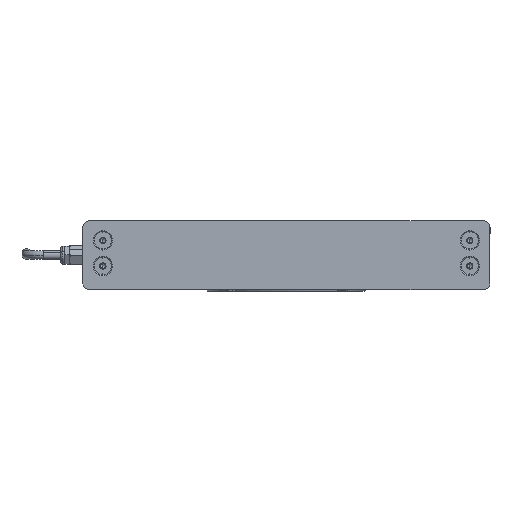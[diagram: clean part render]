
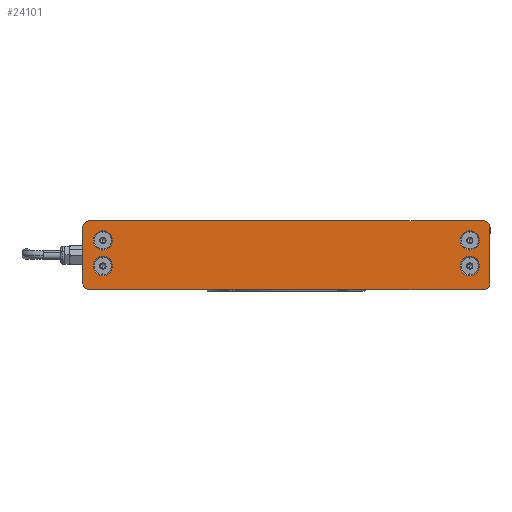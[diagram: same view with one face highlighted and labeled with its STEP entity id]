
A CAD part, left-side view. The second image highlights one B-rep face of the part: STEP entity #24101.
In plain terms, the highlighted planar face has unit normal (-1, 0, 0) as drawn and (0, 0, -1) by its records, which use the part's own axes.
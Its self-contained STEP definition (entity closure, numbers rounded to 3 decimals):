
#5 = CARTESIAN_POINT ( 'NONE',  ( -106.3, -6.3, 0. ) ) ;
#330 = DIRECTION ( 'NONE',  ( 0., 0., -1. ) ) ;
#967 = DIRECTION ( 'NONE',  ( 1., 0., 0. ) ) ;
#1575 = CARTESIAN_POINT ( 'NONE',  ( -114., -16., 0. ) ) ;
#1697 = EDGE_LOOP ( 'NONE', ( #24563, #9396 ) ) ;
#1763 = EDGE_CURVE ( 'NONE', #18692, #17347, #22283, .T. ) ;
#1767 = DIRECTION ( 'NONE',  ( -1., 0., 0. ) ) ;
#2002 = AXIS2_PLACEMENT_3D ( 'NONE', #13225, #4714, #2866 ) ;
#2028 = CARTESIAN_POINT ( 'NONE',  ( -118., 16., 0. ) ) ;
#2050 = AXIS2_PLACEMENT_3D ( 'NONE', #5, #23717, #5785 ) ;
#2136 = VERTEX_POINT ( 'NONE', #25730 ) ;
#2248 = CIRCLE ( 'NONE', #13560, 5.6 ) ;
#2310 = DIRECTION ( 'NONE',  ( 0., -1., 0. ) ) ;
#2498 = EDGE_CURVE ( 'NONE', #8921, #7787, #25748, .T. ) ;
#2655 = AXIS2_PLACEMENT_3D ( 'NONE', #19426, #5940, #23736 ) ;
#2722 = EDGE_CURVE ( 'NONE', #11114, #10862, #2248, .T. ) ;
#2824 = CARTESIAN_POINT ( 'NONE',  ( -111.9, 8.5, 0. ) ) ;
#2866 = DIRECTION ( 'NONE',  ( -1., 0., 0. ) ) ;
#2958 = DIRECTION ( 'NONE',  ( 0., 0., 1. ) ) ;
#3136 = ORIENTED_EDGE ( 'NONE', *, *, #10445, .F. ) ;
#3316 = ORIENTED_EDGE ( 'NONE', *, *, #11850, .F. ) ;
#3332 = ORIENTED_EDGE ( 'NONE', *, *, #10385, .F. ) ;
#3375 = DIRECTION ( 'NONE',  ( -1., 0., 0. ) ) ;
#3665 = ORIENTED_EDGE ( 'NONE', *, *, #20966, .F. ) ;
#4424 = EDGE_LOOP ( 'NONE', ( #17853, #22522, #3332, #6207, #24041, #15583, #21915, #8591 ) ) ;
#4503 = AXIS2_PLACEMENT_3D ( 'NONE', #20879, #10582, #967 ) ;
#4714 = DIRECTION ( 'NONE',  ( 0., 0., -1. ) ) ;
#5221 = DIRECTION ( 'NONE',  ( 0., 0., -1. ) ) ;
#5344 = DIRECTION ( 'NONE',  ( 0., 0., -1. ) ) ;
#5407 = CARTESIAN_POINT ( 'NONE',  ( 111.9, 8.5, 0. ) ) ;
#5595 = CIRCLE ( 'NONE', #2655, 5.6 ) ;
#5785 = DIRECTION ( 'NONE',  ( -1., 0., 0. ) ) ;
#5893 = EDGE_CURVE ( 'NONE', #11047, #19732, #21371, .T. ) ;
#5940 = DIRECTION ( 'NONE',  ( 0., 0., -1. ) ) ;
#6080 = EDGE_CURVE ( 'NONE', #23720, #11047, #11230, .T. ) ;
#6207 = ORIENTED_EDGE ( 'NONE', *, *, #5893, .F. ) ;
#6319 = CARTESIAN_POINT ( 'NONE',  ( 100.7, 8.5, 0. ) ) ;
#6405 = CARTESIAN_POINT ( 'NONE',  ( 100.7, -6.3, 0. ) ) ;
#6413 = DIRECTION ( 'NONE',  ( -1., 0., 0. ) ) ;
#6541 = LINE ( 'NONE', #14651, #25522 ) ;
#7029 = DIRECTION ( 'NONE',  ( 0., 0., -1. ) ) ;
#7050 = DIRECTION ( 'NONE',  ( -1., 0., 0. ) ) ;
#7467 = CARTESIAN_POINT ( 'NONE',  ( 111.9, -6.3, 0. ) ) ;
#7524 = CIRCLE ( 'NONE', #2050, 5.6 ) ;
#7543 = CIRCLE ( 'NONE', #20474, 4. ) ;
#7787 = VERTEX_POINT ( 'NONE', #24614 ) ;
#8298 = CIRCLE ( 'NONE', #4503, 4. ) ;
#8591 = ORIENTED_EDGE ( 'NONE', *, *, #17924, .F. ) ;
#8647 = FACE_BOUND ( 'NONE', #1697, .T. ) ;
#8667 = EDGE_CURVE ( 'NONE', #16506, #11144, #10839, .T. ) ;
#8762 = CARTESIAN_POINT ( 'NONE',  ( 118., 16., 0. ) ) ;
#8921 = VERTEX_POINT ( 'NONE', #12034 ) ;
#8963 = EDGE_CURVE ( 'NONE', #10211, #23720, #19864, .T. ) ;
#9141 = CARTESIAN_POINT ( 'NONE',  ( 106.3, 8.5, 0. ) ) ;
#9396 = ORIENTED_EDGE ( 'NONE', *, *, #13500, .F. ) ;
#9747 = ORIENTED_EDGE ( 'NONE', *, *, #1763, .F. ) ;
#10031 = VERTEX_POINT ( 'NONE', #20684 ) ;
#10211 = VERTEX_POINT ( 'NONE', #2028 ) ;
#10376 = CARTESIAN_POINT ( 'NONE',  ( -114., -20., 0. ) ) ;
#10385 = EDGE_CURVE ( 'NONE', #19732, #16969, #8298, .T. ) ;
#10445 = EDGE_CURVE ( 'NONE', #17347, #18692, #23314, .T. ) ;
#10582 = DIRECTION ( 'NONE',  ( 0., 0., 1. ) ) ;
#10839 = CIRCLE ( 'NONE', #2002, 5.6 ) ;
#10862 = VERTEX_POINT ( 'NONE', #5407 ) ;
#10988 = DIRECTION ( 'NONE',  ( -1., 0., 0. ) ) ;
#11047 = VERTEX_POINT ( 'NONE', #10376 ) ;
#11112 = CARTESIAN_POINT ( 'NONE',  ( 114., 16., 0. ) ) ;
#11114 = VERTEX_POINT ( 'NONE', #6319 ) ;
#11144 = VERTEX_POINT ( 'NONE', #7467 ) ;
#11230 = CIRCLE ( 'NONE', #12032, 4. ) ;
#11850 = EDGE_CURVE ( 'NONE', #7787, #8921, #7524, .T. ) ;
#11869 = ORIENTED_EDGE ( 'NONE', *, *, #2498, .F. ) ;
#12032 = AXIS2_PLACEMENT_3D ( 'NONE', #1575, #17963, #13527 ) ;
#12034 = CARTESIAN_POINT ( 'NONE',  ( -111.9, -6.3, 0. ) ) ;
#13225 = CARTESIAN_POINT ( 'NONE',  ( 106.3, -6.3, 0. ) ) ;
#13260 = CARTESIAN_POINT ( 'NONE',  ( -100.7, 8.5, 0. ) ) ;
#13494 = EDGE_CURVE ( 'NONE', #16635, #2136, #7543, .T. ) ;
#13500 = EDGE_CURVE ( 'NONE', #10862, #11114, #21308, .T. ) ;
#13527 = DIRECTION ( 'NONE',  ( -1., 0., 0. ) ) ;
#13560 = AXIS2_PLACEMENT_3D ( 'NONE', #18286, #330, #16461 ) ;
#13991 = CARTESIAN_POINT ( 'NONE',  ( -114., 16., 0. ) ) ;
#14391 = CARTESIAN_POINT ( 'NONE',  ( -118., -16., 0. ) ) ;
#14625 = AXIS2_PLACEMENT_3D ( 'NONE', #13991, #25412, #21217 ) ;
#14651 = CARTESIAN_POINT ( 'NONE',  ( -114., 20., 0. ) ) ;
#14753 = DIRECTION ( 'NONE',  ( 0., 1., 0. ) ) ;
#14754 = DIRECTION ( 'NONE',  ( 1., 0., 0. ) ) ;
#14861 = CARTESIAN_POINT ( 'NONE',  ( 118., -16., 0. ) ) ;
#14874 = CARTESIAN_POINT ( 'NONE',  ( 118., -16., 0. ) ) ;
#14999 = DIRECTION ( 'NONE',  ( -1., 0., 0. ) ) ;
#15037 = FACE_OUTER_BOUND ( 'NONE', #4424, .T. ) ;
#15427 = CARTESIAN_POINT ( 'NONE',  ( -106.3, 8.5, 0. ) ) ;
#15583 = ORIENTED_EDGE ( 'NONE', *, *, #8963, .F. ) ;
#15617 = ORIENTED_EDGE ( 'NONE', *, *, #8667, .F. ) ;
#15764 = CARTESIAN_POINT ( 'NONE',  ( -118., -16., 0. ) ) ;
#15856 = CIRCLE ( 'NONE', #14625, 4. ) ;
#15872 = AXIS2_PLACEMENT_3D ( 'NONE', #9141, #16981, #7050 ) ;
#16330 = EDGE_CURVE ( 'NONE', #10031, #10211, #15856, .T. ) ;
#16455 = AXIS2_PLACEMENT_3D ( 'NONE', #15427, #23412, #1767 ) ;
#16461 = DIRECTION ( 'NONE',  ( -1., 0., 0. ) ) ;
#16506 = VERTEX_POINT ( 'NONE', #6405 ) ;
#16619 = FACE_BOUND ( 'NONE', #19867, .T. ) ;
#16635 = VERTEX_POINT ( 'NONE', #8762 ) ;
#16960 = AXIS2_PLACEMENT_3D ( 'NONE', #24981, #5344, #17388 ) ;
#16969 = VERTEX_POINT ( 'NONE', #14861 ) ;
#16981 = DIRECTION ( 'NONE',  ( 0., 0., -1. ) ) ;
#17347 = VERTEX_POINT ( 'NONE', #13260 ) ;
#17388 = DIRECTION ( 'NONE',  ( -1., 0., 0. ) ) ;
#17853 = ORIENTED_EDGE ( 'NONE', *, *, #13494, .F. ) ;
#17924 = EDGE_CURVE ( 'NONE', #2136, #10031, #6541, .T. ) ;
#17963 = DIRECTION ( 'NONE',  ( 0., 0., 1. ) ) ;
#18286 = CARTESIAN_POINT ( 'NONE',  ( 106.3, 8.5, 0. ) ) ;
#18692 = VERTEX_POINT ( 'NONE', #2824 ) ;
#18846 = PLANE ( 'NONE',  #16960 ) ;
#19259 = EDGE_LOOP ( 'NONE', ( #11869, #3316 ) ) ;
#19426 = CARTESIAN_POINT ( 'NONE',  ( 106.3, -6.3, 0. ) ) ;
#19732 = VERTEX_POINT ( 'NONE', #25735 ) ;
#19864 = LINE ( 'NONE', #14391, #20853 ) ;
#19867 = EDGE_LOOP ( 'NONE', ( #9747, #3136 ) ) ;
#19949 = VECTOR ( 'NONE', #14754, 1000. ) ;
#20474 = AXIS2_PLACEMENT_3D ( 'NONE', #11112, #2958, #10988 ) ;
#20684 = CARTESIAN_POINT ( 'NONE',  ( -114., 20., 0. ) ) ;
#20748 = LINE ( 'NONE', #14874, #21526 ) ;
#20853 = VECTOR ( 'NONE', #2310, 1000. ) ;
#20879 = CARTESIAN_POINT ( 'NONE',  ( 114., -16., 0. ) ) ;
#20966 = EDGE_CURVE ( 'NONE', #11144, #16506, #5595, .T. ) ;
#21217 = DIRECTION ( 'NONE',  ( -1., 0., 0. ) ) ;
#21308 = CIRCLE ( 'NONE', #15872, 5.6 ) ;
#21371 = LINE ( 'NONE', #24568, #19949 ) ;
#21526 = VECTOR ( 'NONE', #14753, 1000. ) ;
#21915 = ORIENTED_EDGE ( 'NONE', *, *, #16330, .F. ) ;
#22283 = CIRCLE ( 'NONE', #16455, 5.6 ) ;
#22522 = ORIENTED_EDGE ( 'NONE', *, *, #23533, .F. ) ;
#22900 = AXIS2_PLACEMENT_3D ( 'NONE', #24945, #7029, #14999 ) ;
#23241 = AXIS2_PLACEMENT_3D ( 'NONE', #25252, #5221, #3375 ) ;
#23314 = CIRCLE ( 'NONE', #22900, 5.6 ) ;
#23412 = DIRECTION ( 'NONE',  ( 0., 0., -1. ) ) ;
#23533 = EDGE_CURVE ( 'NONE', #16969, #16635, #20748, .T. ) ;
#23717 = DIRECTION ( 'NONE',  ( 0., 0., -1. ) ) ;
#23720 = VERTEX_POINT ( 'NONE', #15764 ) ;
#23736 = DIRECTION ( 'NONE',  ( -1., 0., 0. ) ) ;
#23777 = EDGE_LOOP ( 'NONE', ( #15617, #3665 ) ) ;
#24041 = ORIENTED_EDGE ( 'NONE', *, *, #6080, .F. ) ;
#24101 = ADVANCED_FACE ( 'NONE', ( #8647, #24468, #16619, #24605, #15037 ), #18846, .T. ) ;
#24468 = FACE_BOUND ( 'NONE', #23777, .T. ) ;
#24563 = ORIENTED_EDGE ( 'NONE', *, *, #2722, .F. ) ;
#24568 = CARTESIAN_POINT ( 'NONE',  ( -114., -20., 0. ) ) ;
#24605 = FACE_BOUND ( 'NONE', #19259, .T. ) ;
#24614 = CARTESIAN_POINT ( 'NONE',  ( -100.7, -6.3, 0. ) ) ;
#24945 = CARTESIAN_POINT ( 'NONE',  ( -106.3, 8.5, 0. ) ) ;
#24981 = CARTESIAN_POINT ( 'NONE',  ( 114., 16., 0. ) ) ;
#25252 = CARTESIAN_POINT ( 'NONE',  ( -106.3, -6.3, 0. ) ) ;
#25412 = DIRECTION ( 'NONE',  ( 0., 0., 1. ) ) ;
#25522 = VECTOR ( 'NONE', #6413, 1000. ) ;
#25730 = CARTESIAN_POINT ( 'NONE',  ( 114., 20., 0. ) ) ;
#25735 = CARTESIAN_POINT ( 'NONE',  ( 114., -20., 0. ) ) ;
#25748 = CIRCLE ( 'NONE', #23241, 5.6 ) ;
